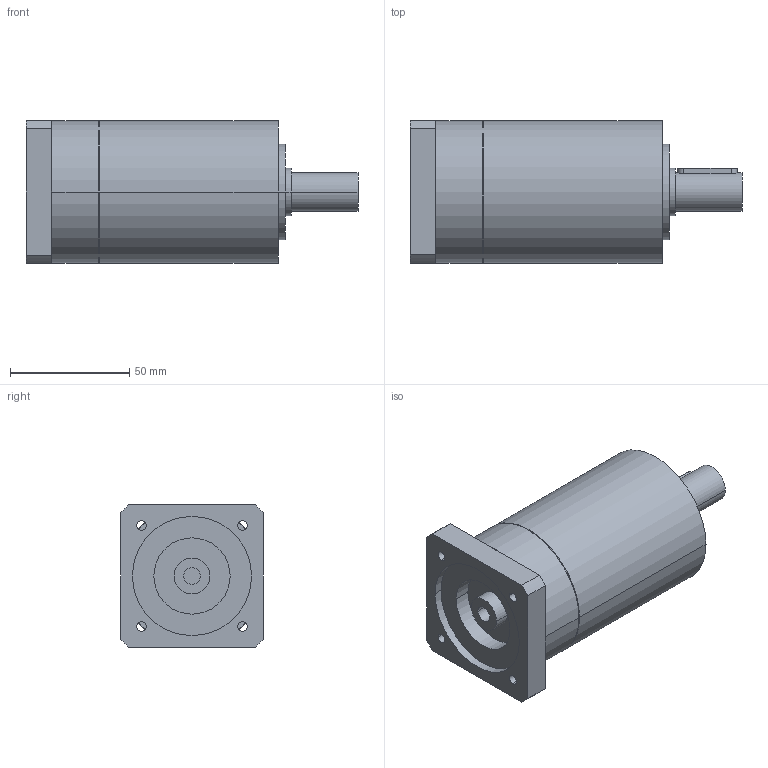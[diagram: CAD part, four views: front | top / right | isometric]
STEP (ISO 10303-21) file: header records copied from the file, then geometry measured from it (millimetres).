
FILE_DESCRIPTION(('CoCreate Modeling STEP Export'),'2;1');
FILE_NAME('GPR75_ig-9-12-16-20-24-30-36_16_B14_7_P18.stp','2014-08-25T16:05:26',(''),(''),'CoCreate Modeling STEP processor for AP214 (Solid Model)','CoCreate Modeling 16.00C 25-Feb-2009 (C) Parametric Technology GmbH','');
FILE_SCHEMA(('AUTOMOTIVE_DESIGN { 1 0 10303 214 1 1 1 1 }'));
Length unit declared in the file: millimetre
Products named in the file (2): GPR75_ig-9-12-16-20-24-30-36_16_B14_7_P18
Assembly tree (1 placements, depth 2):
  GPR75_ig-9-12-16-20-24-30-36_16_B14_7_P18
    GPR75_ig-9-12-16-20-24-30-36_16_B14_7_P18
Bounding box: 139.4 x 60 x 60 mm (x, y, z)
Volume: 304104.4 mm3; surface area: 33053.8 mm2
Topology: 1 solids, 1 shells, 74 faces, 200 edges, 136 vertices
Faces by surface type: cylinder 42, plane 26, cone 6
Entity records: 2017 total; most frequent: ORIENTED_EDGE 396, CARTESIAN_POINT 370, DIRECTION 274, EDGE_CURVE 198, VERTEX_POINT 136, AXIS2_PLACEMENT_3D 104, EDGE_LOOP 92, FACE_OUTER_BOUND 74
